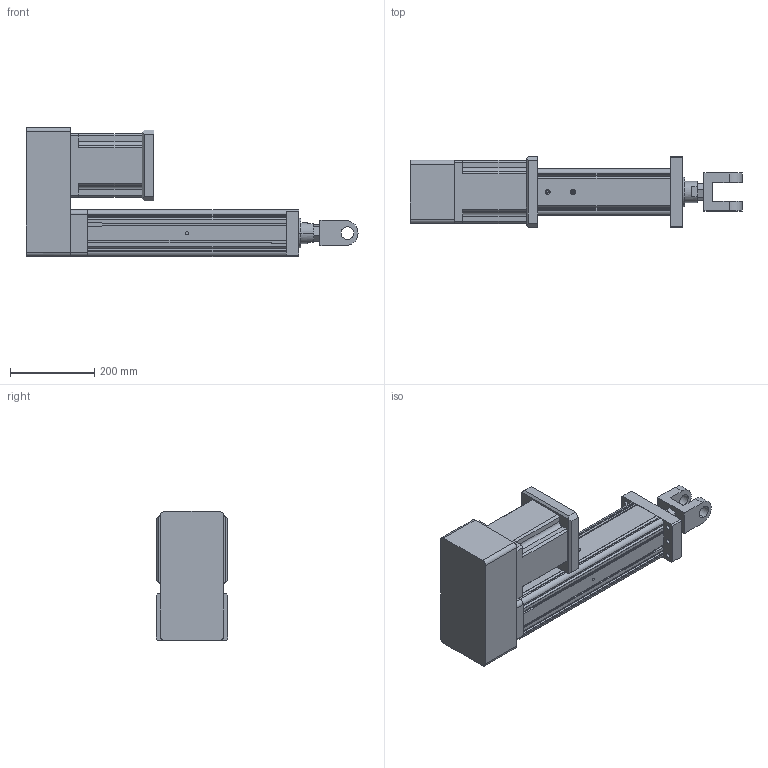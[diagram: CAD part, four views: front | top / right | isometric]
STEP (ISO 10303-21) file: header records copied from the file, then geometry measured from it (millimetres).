
FILE_DESCRIPTION (( 'STEP AP203' ), '1' );
FILE_NAME ('YRJ110-L300-H3K4.STEP', '2020-01-04T06:39:32', ( 'User' ), ( 'China' ), 'SwSTEP 2.0', 'SolidWorks 2016', '' );
FILE_SCHEMA (( 'CONFIG_CONTROL_DESIGN' ));
Length unit declared in the file: millimetre
Products named in the file (7): 095-100俴最倰第; 萇儂碟-110; 142熬厒儂; H3-110-1; H3-110-2; K4-110; YRJ110-L300-H3K4
Assembly tree (6 placements, depth 2):
  YRJ110-L300-H3K4
    095-100俴最倰第
    萇儂碟-110
    142熬厒儂
    H3-110-1
    H3-110-2
    K4-110
Bounding box: 786 x 170 x 305.5 mm (x, y, z)
Volume: 12155169.5 mm3; surface area: 948732.6 mm2
Topology: 6 solids, 6 shells, 326 faces, 904 edges, 585 vertices
Faces by surface type: plane 179, cylinder 120, cone 27
Entity records: 11416 total; most frequent: CARTESIAN_POINT 2148, DIRECTION 1791, ORIENTED_EDGE 1776, EDGE_CURVE 888, LINE 611, VECTOR 611, AXIS2_PLACEMENT_3D 590, VERTEX_POINT 585
